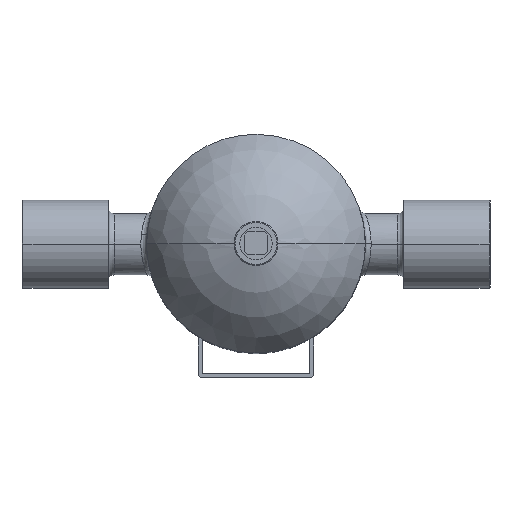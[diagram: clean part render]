
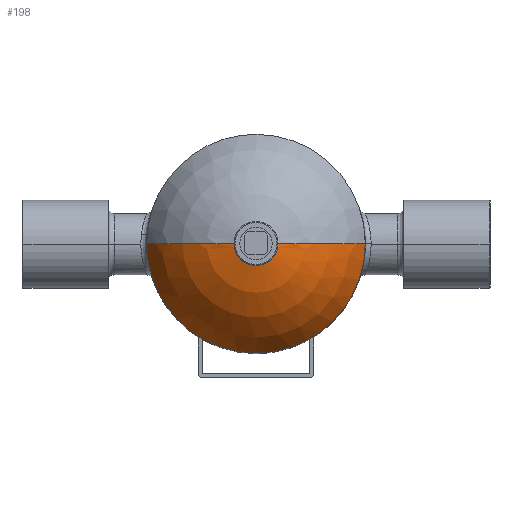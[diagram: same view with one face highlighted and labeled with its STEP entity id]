
A CAD part, top view. The second image highlights one B-rep face of the part: STEP entity #198.
In plain terms, the highlighted spherical face has radius 63.261 mm.
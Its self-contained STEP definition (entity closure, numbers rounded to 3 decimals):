
#198=ADVANCED_FACE('',(#1140),#1139,.T.);
#1139=SPHERICAL_SURFACE('',#2540,63.261);
#1140=FACE_OUTER_BOUND('',#2541,.T.);
#2537=CARTESIAN_POINT('',(0.,0.,110.739));
#2538=DIRECTION('',(0.,0.,-1.));
#2539=DIRECTION('',(1.,0.,0.));
#2540=AXIS2_PLACEMENT_3D('',#2537,#2538,#2539);
#2541=EDGE_LOOP('',(#3677,#3678,#3679,#3680,#3681));
#3677=ORIENTED_EDGE('',*,*,#4169,.T.);
#3678=ORIENTED_EDGE('',*,*,#4166,.T.);
#3679=ORIENTED_EDGE('',*,*,#4132,.F.);
#3680=ORIENTED_EDGE('',*,*,#4141,.F.);
#3681=ORIENTED_EDGE('',*,*,#4168,.F.);
#4132=EDGE_CURVE('',#5734,#5735,#5736,.T.);
#4141=EDGE_CURVE('',#5789,#5734,#5796,.T.);
#4166=EDGE_CURVE('',#5962,#5735,#5963,.T.);
#4168=EDGE_CURVE('',#5969,#5789,#5976,.T.);
#4169=EDGE_CURVE('',#5969,#5962,#5982,.T.);
#5734=VERTEX_POINT('',#7705);
#5735=VERTEX_POINT('',#7706);
#5736=(BOUNDED_CURVE() B_SPLINE_CURVE(2,(#7707,#7708,#7709),.UNSPECIFIED.,.F.,.F.) B_SPLINE_CURVE_WITH_KNOTS((3,3),(0.,1.),.UNSPECIFIED.) CURVE() GEOMETRIC_REPRESENTATION_ITEM() RATIONAL_B_SPLINE_CURVE((1.,0.71,1.)) REPRESENTATION_ITEM('') );
#5789=VERTEX_POINT('',#7737);
#5796=(BOUNDED_CURVE() B_SPLINE_CURVE(2,(#7742,#7743,#7744),.UNSPECIFIED.,.F.,.F.) B_SPLINE_CURVE_WITH_KNOTS((3,3),(0.,1.),.UNSPECIFIED.) CURVE() GEOMETRIC_REPRESENTATION_ITEM() RATIONAL_B_SPLINE_CURVE((1.,0.704,1.)) REPRESENTATION_ITEM('') );
#5962=VERTEX_POINT('',#8035);
#5963=(BOUNDED_CURVE() B_SPLINE_CURVE(2,(#8036,#8037,#8038),.UNSPECIFIED.,.F.,.F.) B_SPLINE_CURVE_WITH_KNOTS((3,3),(0.,1.),.UNSPECIFIED.) CURVE() GEOMETRIC_REPRESENTATION_ITEM() RATIONAL_B_SPLINE_CURVE((1.,0.892,1.)) REPRESENTATION_ITEM('') );
#5969=VERTEX_POINT('',#8039);
#5976=(BOUNDED_CURVE() B_SPLINE_CURVE(2,(#8044,#8045,#8046),.UNSPECIFIED.,.F.,.F.) B_SPLINE_CURVE_WITH_KNOTS((3,3),(0.,1.),.UNSPECIFIED.) CURVE() GEOMETRIC_REPRESENTATION_ITEM() RATIONAL_B_SPLINE_CURVE((0.75,0.669,0.75)) REPRESENTATION_ITEM('') );
#5982=CIRCLE('',#8050,11.5);
#7705=CARTESIAN_POINT('',(-0.497,-56.998,138.179));
#7706=CARTESIAN_POINT('',(-57.,0.,138.179));
#7707=CARTESIAN_POINT('',(-0.497,-56.998,138.179));
#7708=CARTESIAN_POINT('',(-57.,-56.51,138.179));
#7709=CARTESIAN_POINT('',(-57.,0.,138.179));
#7737=CARTESIAN_POINT('',(57.,0.,138.179));
#7742=CARTESIAN_POINT('',(57.,0.,138.179));
#7743=CARTESIAN_POINT('',(57.,-57.494,138.179));
#7744=CARTESIAN_POINT('',(-0.497,-56.998,138.179));
#8035=CARTESIAN_POINT('',(-11.5,0.,172.946));
#8036=CARTESIAN_POINT('',(-11.5,0.,172.946));
#8037=CARTESIAN_POINT('',(-43.073,0.,167.109));
#8038=CARTESIAN_POINT('',(-57.,0.,138.179));
#8039=CARTESIAN_POINT('',(11.5,0.,172.946));
#8044=CARTESIAN_POINT('',(11.5,0.,172.946));
#8045=CARTESIAN_POINT('',(43.073,0.,167.109));
#8046=CARTESIAN_POINT('',(57.,0.,138.179));
#8047=CARTESIAN_POINT('',(0.,0.,172.946));
#8048=DIRECTION('',(0.,0.,-1.));
#8049=DIRECTION('',(-1.,0.,0.));
#8050=AXIS2_PLACEMENT_3D('',#8047,#8048,#8049);
